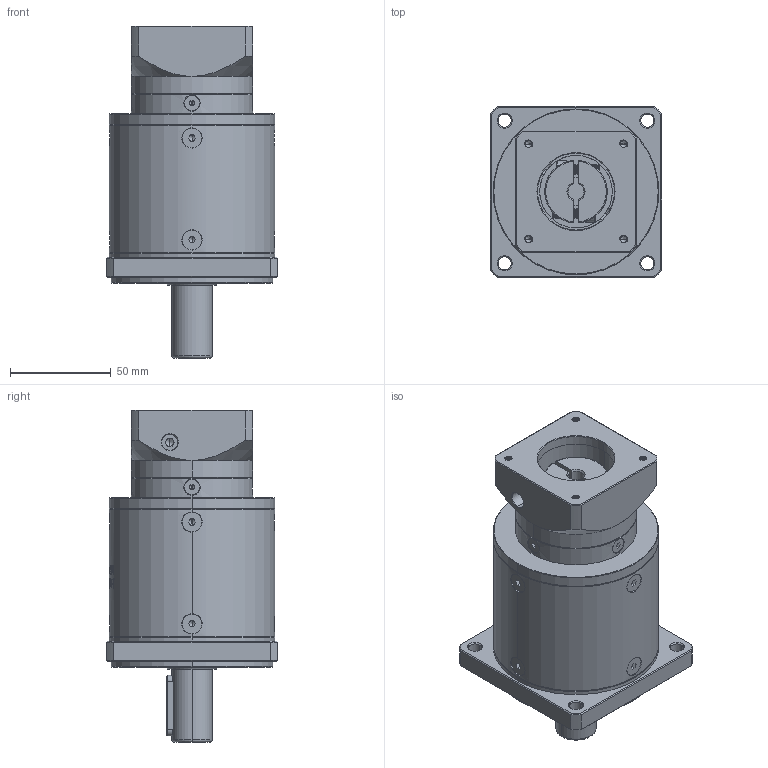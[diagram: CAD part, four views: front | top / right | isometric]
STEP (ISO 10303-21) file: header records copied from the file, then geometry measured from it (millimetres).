
FILE_DESCRIPTION (( 'STEP AP214' ), '1' );
FILE_NAME ('ZF080-D20-L3-P2-8-38.1-47.14X47.14-M4.step', '2023-08-19T06:55:14', ( '' ), ( '' ), 'SwSTEP 2.0', 'SolidWorks 2016', '' );
FILE_SCHEMA (( 'AUTOMOTIVE_DESIGN' ));
Length unit declared in the file: millimetre
Products named in the file (1): ZF080-D20-L3-P2-8-38.1-47.14X47.14-M4
Bounding box: 85 x 85 x 164.5 mm (x, y, z)
Volume: 577570.8 mm3; surface area: 72441.4 mm2
Topology: 18 solids, 18 shells, 2254 faces, 5938 edges, 3785 vertices
Faces by surface type: plane 1123, bspline 394, cylinder 375, cone 320, torus 42
Entity records: 116516 total; most frequent: CARTESIAN_POINT 40845, ORIENTED_EDGE 11800, DIRECTION 8874, EDGE_CURVE 5900, VERTEX_POINT 3785, LINE 3128, VECTOR 3128, AXIS2_PLACEMENT_3D 2873
